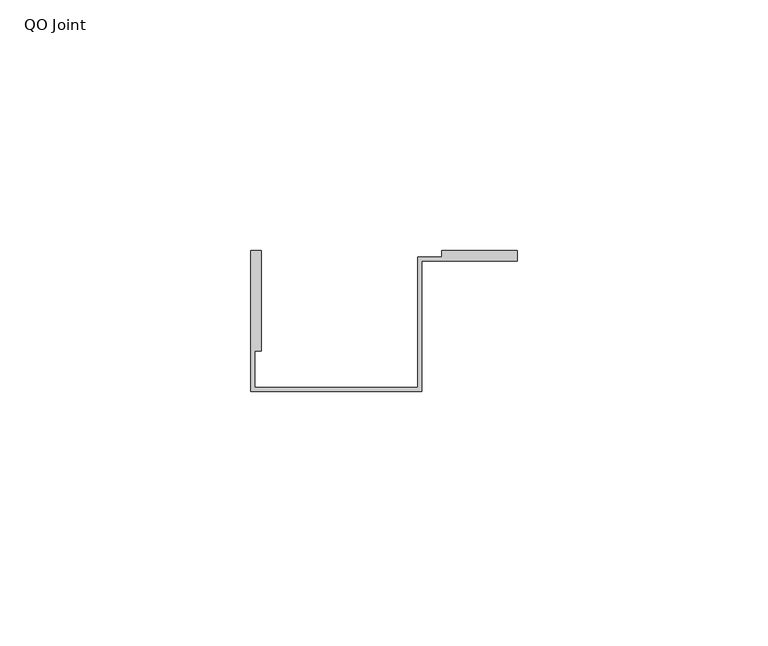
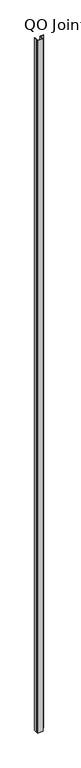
"""IFC4 building model written with IfcOpenShell, lengths in millimetres: column geometry, QO-V-inner corner_C : QO Joint."""

from ifc_helpers import new_model, si_unit, frame, origin, place, context, project, spatial, polyline, outline, extrude, source, transform, mapped, element, save


def qo_joint_2cbc9101(model_context):
    return source(origin(), model_context, "Body", "SweptSolid", [
        extrude(outline(polyline([(-21.0, 26.0), (-21.0, 0.0), (-55.0, 0.0), (-55.0, 28.0), (-53.0, 28.0), (-53.0, 8.0), (-54.2, 8.0), (-54.2, 0.8), (-21.8, 0.8), (-21.8, 26.8), (-17.0, 26.8), (-17.0, 28.0), (-2.0, 28.0), (-2.0, 26.0), (-21.0, 26.0)])), frame((0.0, 0.0, 160.0), z_axis=(0.0, 0.0, 1.0), x_axis=(1.0, 0.0, 0.0)), (0.0, 0.0, 1.0), 4490.0),
    ])


if __name__ == "__main__":
    model = new_model("IFC4")
    model_context = context("Model", 3, world=origin())
    ifc_project = project(units=[si_unit("LENGTHUNIT", "METRE", prefix="MILLI")], contexts=[model_context])
    site = spatial("IfcSite", under=ifc_project)
    building = spatial("IfcBuilding", under=site)
    placement = place(None, origin())
    qo_joint_shape = qo_joint_2cbc9101(model_context)
    element("IfcColumn", 1, ObjectType="QO-V-inner corner_C : QO Joint", at=placement, inside=building, context=model_context, shape_type="MappedRepresentation", body=[
        mapped(qo_joint_shape, transform((0.0, 0.0, 0.0), x_axis=(1.0, 0.0, 0.0), y_axis=(0.0, 1.0, 0.0), z_axis=(0.0, 0.0, 1.0))),
    ])
    save(model, "model.ifc")
